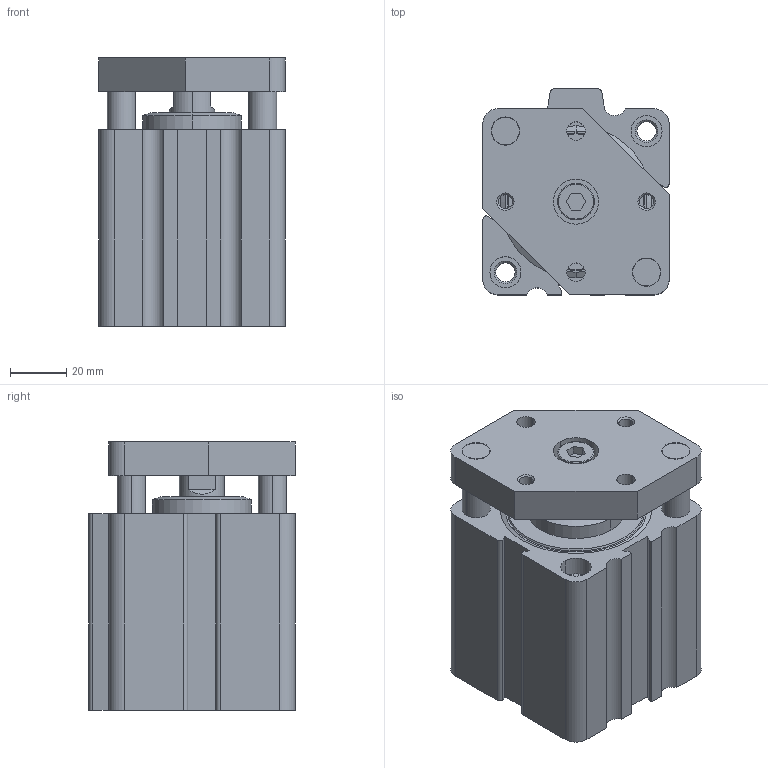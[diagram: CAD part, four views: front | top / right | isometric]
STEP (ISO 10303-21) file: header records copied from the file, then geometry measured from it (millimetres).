
FILE_DESCRIPTION((''),'2;1');
FILE_NAME('0822010865_ASM','2015-07-01T',('vol1hc'),(''),'PRO/ENGINEER BY PARAMETRIC TECHNOLOGY CORPORATION, 2012421','PRO/ENGINEER BY PARAMETRIC TECHNOLOGY CORPORATION, 2012421','');
FILE_SCHEMA(('CONFIG_CONTROL_DESIGN','SHAPE_APPEARANCE_LAYERS_GROUPS'));
Length unit declared in the file: millimetre
Products named in the file (3): 0822010865-A; 0822010865-B; 0822010865_ASM
Assembly tree (2 placements, depth 2):
  0822010865_ASM
    0822010865-A
    0822010865-B
Bounding box: 66 x 73 x 95 mm (x, y, z)
Volume: 282018.7 mm3; surface area: 78971.5 mm2
Topology: 2 solids, 2 shells, 200 faces, 464 edges, 298 vertices
Faces by surface type: cylinder 86, plane 74, cone 34, torus 6
Entity records: 5895 total; most frequent: DIRECTION 1098, CARTESIAN_POINT 984, ORIENTED_EDGE 928, EDGE_CURVE 464, AXIS2_PLACEMENT_3D 431, VERTEX_POINT 298, EDGE_LOOP 246, VECTOR 236
